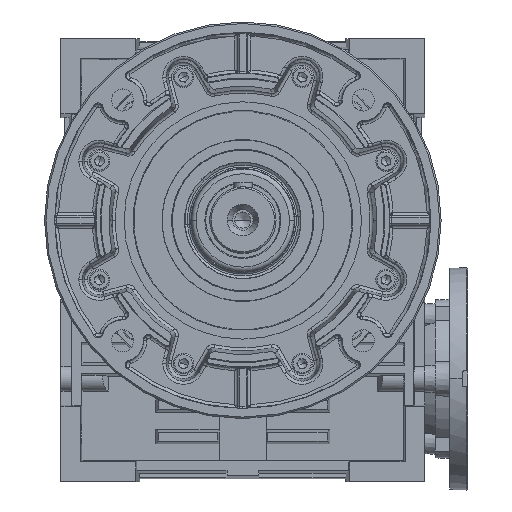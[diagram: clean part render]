
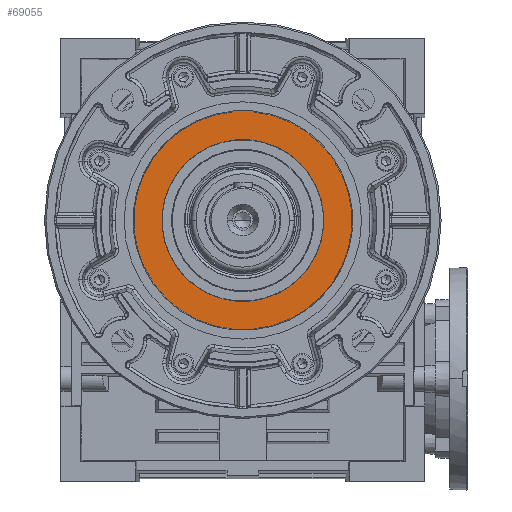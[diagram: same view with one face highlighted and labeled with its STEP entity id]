
A CAD part, top view. The second image highlights one B-rep face of the part: STEP entity #69055.
In plain terms, the highlighted planar face has unit normal (0, 0, 1).
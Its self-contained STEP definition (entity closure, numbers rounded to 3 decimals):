
#476 = ORIENTED_EDGE ( 'NONE', *, *, #80689, .T. ) ;
#2541 = DIRECTION ( 'NONE',  ( -0.707, -0.707, 0. ) ) ;
#7419 = ORIENTED_EDGE ( 'NONE', *, *, #81124, .T. ) ;
#7567 = CARTESIAN_POINT ( 'NONE',  ( 48.79, 48.79, 65. ) ) ;
#15466 = DIRECTION ( 'NONE',  ( 0., 0., -1. ) ) ;
#15831 = FACE_BOUND ( 'NONE', #27874, .T. ) ;
#16245 = CARTESIAN_POINT ( 'NONE',  ( -48.79, 48.79, 65. ) ) ;
#16968 = DIRECTION ( 'NONE',  ( -0.707, -0.707, 0. ) ) ;
#21488 = VERTEX_POINT ( 'NONE', #44013 ) ;
#22304 = DIRECTION ( 'NONE',  ( 0.707, 0.707, 0. ) ) ;
#23158 = FACE_OUTER_BOUND ( 'NONE', #42191, .T. ) ;
#23185 = VERTEX_POINT ( 'NONE', #38143 ) ;
#25787 = AXIS2_PLACEMENT_3D ( 'NONE', #64611, #71505, #51256 ) ;
#27874 = EDGE_LOOP ( 'NONE', ( #476, #7419 ) ) ;
#29998 = AXIS2_PLACEMENT_3D ( 'NONE', #45518, #39086, #64519 ) ;
#30475 = AXIS2_PLACEMENT_3D ( 'NONE', #42035, #55396, #16968 ) ;
#38143 = CARTESIAN_POINT ( 'NONE',  ( -48.79, -48.79, 65. ) ) ;
#39086 = DIRECTION ( 'NONE',  ( 0., 0., -1. ) ) ;
#42035 = CARTESIAN_POINT ( 'NONE',  ( 0., 0., 65. ) ) ;
#42191 = EDGE_LOOP ( 'NONE', ( #57489, #73868 ) ) ;
#43952 = CIRCLE ( 'NONE', #53597, 69. ) ;
#44013 = CARTESIAN_POINT ( 'NONE',  ( 36.186, 36.186, 65. ) ) ;
#45518 = CARTESIAN_POINT ( 'NONE',  ( 0., 0., 65. ) ) ;
#47894 = VERTEX_POINT ( 'NONE', #67048 ) ;
#49480 = DIRECTION ( 'NONE',  ( 0., 0., 1. ) ) ;
#49699 = CIRCLE ( 'NONE', #30475, 69. ) ;
#51256 = DIRECTION ( 'NONE',  ( -0.707, -0.707, 0. ) ) ;
#53597 = AXIS2_PLACEMENT_3D ( 'NONE', #68096, #15466, #2541 ) ;
#55396 = DIRECTION ( 'NONE',  ( 0., 0., -1. ) ) ;
#57489 = ORIENTED_EDGE ( 'NONE', *, *, #75887, .F. ) ;
#63010 = CIRCLE ( 'NONE', #25787, 51.175 ) ;
#64519 = DIRECTION ( 'NONE',  ( -0.707, -0.707, 0. ) ) ;
#64611 = CARTESIAN_POINT ( 'NONE',  ( 0., 0., 65. ) ) ;
#67048 = CARTESIAN_POINT ( 'NONE',  ( -36.186, -36.186, 65. ) ) ;
#68096 = CARTESIAN_POINT ( 'NONE',  ( 0., 0., 65. ) ) ;
#69055 = ADVANCED_FACE ( 'NONE', ( #15831, #23158 ), #76211, .T. ) ;
#70393 = VERTEX_POINT ( 'NONE', #7567 ) ;
#71505 = DIRECTION ( 'NONE',  ( 0., 0., -1. ) ) ;
#73868 = ORIENTED_EDGE ( 'NONE', *, *, #84549, .F. ) ;
#75887 = EDGE_CURVE ( 'NONE', #70393, #23185, #43952, .T. ) ;
#76211 = PLANE ( 'NONE',  #80535 ) ;
#79557 = CIRCLE ( 'NONE', #29998, 51.175 ) ;
#80535 = AXIS2_PLACEMENT_3D ( 'NONE', #16245, #49480, #22304 ) ;
#80689 = EDGE_CURVE ( 'NONE', #47894, #21488, #63010, .T. ) ;
#81124 = EDGE_CURVE ( 'NONE', #21488, #47894, #79557, .T. ) ;
#84549 = EDGE_CURVE ( 'NONE', #23185, #70393, #49699, .T. ) ;
